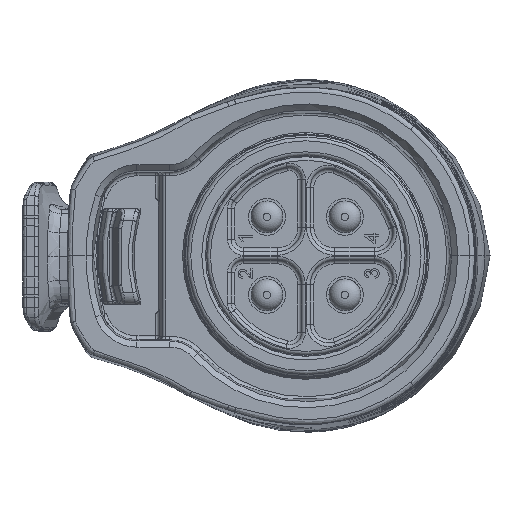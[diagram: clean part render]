
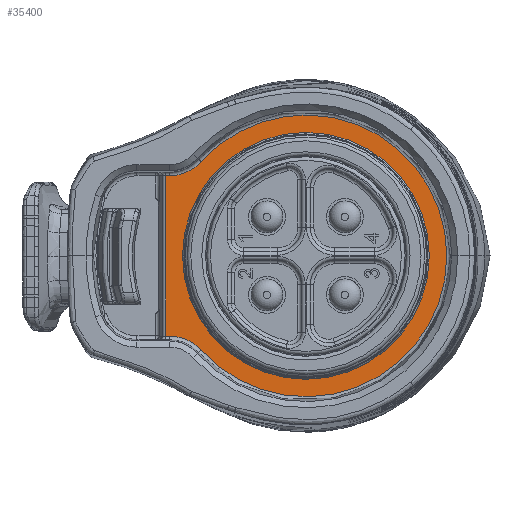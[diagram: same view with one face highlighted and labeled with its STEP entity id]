
A CAD part, left-side view. The second image highlights one B-rep face of the part: STEP entity #35400.
In plain terms, the highlighted planar face has unit normal (-1, 0, 0).
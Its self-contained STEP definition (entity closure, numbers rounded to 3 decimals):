
#838 = AXIS2_PLACEMENT_3D ( 'NONE', #81803, #52645, #12572 ) ;
#874 = ORIENTED_EDGE ( 'NONE', *, *, #27739, .T. ) ;
#2995 = DIRECTION ( 'NONE',  ( 0., -1., 0. ) ) ;
#5275 = CARTESIAN_POINT ( 'NONE',  ( 11.696, 11.113, 6.553 ) ) ;
#9021 = EDGE_CURVE ( 'NONE', #58285, #45642, #28287, .T. ) ;
#10393 = EDGE_CURVE ( 'NONE', #46676, #14688, #46582, .T. ) ;
#10820 = ORIENTED_EDGE ( 'NONE', *, *, #9021, .T. ) ;
#12572 = DIRECTION ( 'NONE',  ( 0., -1., 0. ) ) ;
#12633 = ORIENTED_EDGE ( 'NONE', *, *, #10393, .T. ) ;
#12755 = AXIS2_PLACEMENT_3D ( 'NONE', #14725, #55692, #63425 ) ;
#14688 = VERTEX_POINT ( 'NONE', #88131 ) ;
#14725 = CARTESIAN_POINT ( 'NONE',  ( 11.696, 11.113, -10. ) ) ;
#15157 = CARTESIAN_POINT ( 'NONE',  ( 11.696, -9.7, 0. ) ) ;
#15758 = CARTESIAN_POINT ( 'NONE',  ( 11.696, 11.113, 10. ) ) ;
#15865 = EDGE_LOOP ( 'NONE', ( #50788 ) ) ;
#17173 = FACE_OUTER_BOUND ( 'NONE', #45417, .T. ) ;
#21112 = LINE ( 'NONE', #41589, #33717 ) ;
#21956 = DIRECTION ( 'NONE',  ( 0., 0., 1. ) ) ;
#24765 = AXIS2_PLACEMENT_3D ( 'NONE', #50616, #69778, #21956 ) ;
#26582 = DIRECTION ( 'NONE',  ( 0., 1., 0. ) ) ;
#27739 = EDGE_CURVE ( 'NONE', #45642, #63682, #85704, .T. ) ;
#28287 = LINE ( 'NONE', #34199, #40743 ) ;
#29851 = CARTESIAN_POINT ( 'NONE',  ( 11.696, 0., 0. ) ) ;
#31451 = DIRECTION ( 'NONE',  ( 0., -1., 0. ) ) ;
#31674 = CIRCLE ( 'NONE', #12755, 3.447 ) ;
#33717 = VECTOR ( 'NONE', #26582, 1000. ) ;
#34199 = CARTESIAN_POINT ( 'NONE',  ( 11.696, 11.44, -3.9 ) ) ;
#34809 = ORIENTED_EDGE ( 'NONE', *, *, #80143, .T. ) ;
#35400 = ADVANCED_FACE ( 'NONE', ( #79574, #17173 ), #72719, .T. ) ;
#36801 = CIRCLE ( 'NONE', #70266, 3.447 ) ;
#40743 = VECTOR ( 'NONE', #47401, 1000. ) ;
#41589 = CARTESIAN_POINT ( 'NONE',  ( 11.696, 13.796, 6.553 ) ) ;
#44411 = DIRECTION ( 'NONE',  ( 1., 0., 0. ) ) ;
#45417 = EDGE_LOOP ( 'NONE', ( #89755, #10820, #874, #82191, #12633, #34809 ) ) ;
#45642 = VERTEX_POINT ( 'NONE', #46813 ) ;
#46582 = CIRCLE ( 'NONE', #24765, 11.503 ) ;
#46676 = VERTEX_POINT ( 'NONE', #58948 ) ;
#46813 = CARTESIAN_POINT ( 'NONE',  ( 11.696, 11.44, -6.553 ) ) ;
#47401 = DIRECTION ( 'NONE',  ( 0., 0., -1. ) ) ;
#47648 = EDGE_CURVE ( 'NONE', #63682, #46676, #31674, .T. ) ;
#50616 = CARTESIAN_POINT ( 'NONE',  ( 11.696, 0., 0. ) ) ;
#50788 = ORIENTED_EDGE ( 'NONE', *, *, #85221, .T. ) ;
#51117 = VERTEX_POINT ( 'NONE', #5275 ) ;
#52645 = DIRECTION ( 'NONE',  ( -1., 0., 0. ) ) ;
#55692 = DIRECTION ( 'NONE',  ( 1., 0., 0. ) ) ;
#58285 = VERTEX_POINT ( 'NONE', #77145 ) ;
#58821 = AXIS2_PLACEMENT_3D ( 'NONE', #29851, #44411, #2995 ) ;
#58948 = CARTESIAN_POINT ( 'NONE',  ( 11.696, 8.551, -7.694 ) ) ;
#59312 = DIRECTION ( 'NONE',  ( 1., 0., 0. ) ) ;
#63425 = DIRECTION ( 'NONE',  ( 0., 0., 1. ) ) ;
#63682 = VERTEX_POINT ( 'NONE', #69295 ) ;
#69295 = CARTESIAN_POINT ( 'NONE',  ( 11.696, 11.113, -6.553 ) ) ;
#69778 = DIRECTION ( 'NONE',  ( -1., 0., 0. ) ) ;
#70266 = AXIS2_PLACEMENT_3D ( 'NONE', #15758, #59312, #85007 ) ;
#72053 = VERTEX_POINT ( 'NONE', #15157 ) ;
#72719 = PLANE ( 'NONE',  #838 ) ;
#75623 = EDGE_CURVE ( 'NONE', #51117, #58285, #21112, .T. ) ;
#77145 = CARTESIAN_POINT ( 'NONE',  ( 11.696, 11.44, 6.553 ) ) ;
#79574 = FACE_BOUND ( 'NONE', #15865, .T. ) ;
#80143 = EDGE_CURVE ( 'NONE', #14688, #51117, #36801, .T. ) ;
#80562 = CIRCLE ( 'NONE', #58821, 9.7 ) ;
#81803 = CARTESIAN_POINT ( 'NONE',  ( 11.696, 0., 0. ) ) ;
#82191 = ORIENTED_EDGE ( 'NONE', *, *, #47648, .T. ) ;
#85007 = DIRECTION ( 'NONE',  ( 0., 0., 1. ) ) ;
#85221 = EDGE_CURVE ( 'NONE', #72053, #72053, #80562, .T. ) ;
#85704 = LINE ( 'NONE', #86605, #89061 ) ;
#86605 = CARTESIAN_POINT ( 'NONE',  ( 11.696, 13.796, -6.553 ) ) ;
#88131 = CARTESIAN_POINT ( 'NONE',  ( 11.696, 8.551, 7.694 ) ) ;
#89061 = VECTOR ( 'NONE', #31451, 1000. ) ;
#89755 = ORIENTED_EDGE ( 'NONE', *, *, #75623, .T. ) ;
